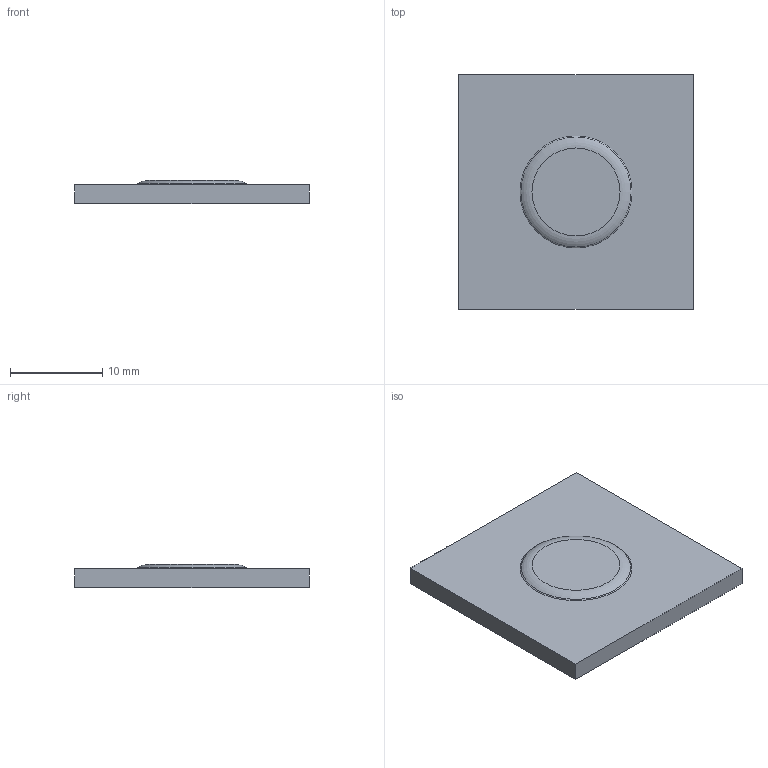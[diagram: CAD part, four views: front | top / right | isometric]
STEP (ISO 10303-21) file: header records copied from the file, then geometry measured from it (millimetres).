
FILE_DESCRIPTION((''),'1');
FILE_NAME('C:/Users/ericfrey.TRIAX/Documents/Desktop/DIMPLE FOR 407-5836-00 REV 01..stp', '2014-03-26T17:51:59',(''), (''), 'KCM Version 1.1.967.0', 'Kubotek KeyCreator', '');
FILE_SCHEMA(('AUTOMOTIVE_DESIGN'));
Length unit declared in the file: inch
Bounding box: 25.4 x 25.4 x 2.49 mm (x, y, z)
Volume: 1319.5 mm3; surface area: 1504.9 mm2
Topology: 1 solids, 1 shells, 12 faces, 24 edges, 16 vertices
Faces by surface type: plane 8, torus 2, cone 2
Entity records: 333 total; most frequent: DIRECTION 56, CARTESIAN_POINT 51, ORIENTED_EDGE 48, EDGE_CURVE 24, AXIS2_PLACEMENT_3D 21, VERTEX_POINT 16, EDGE_LOOP 14, VECTOR 14
